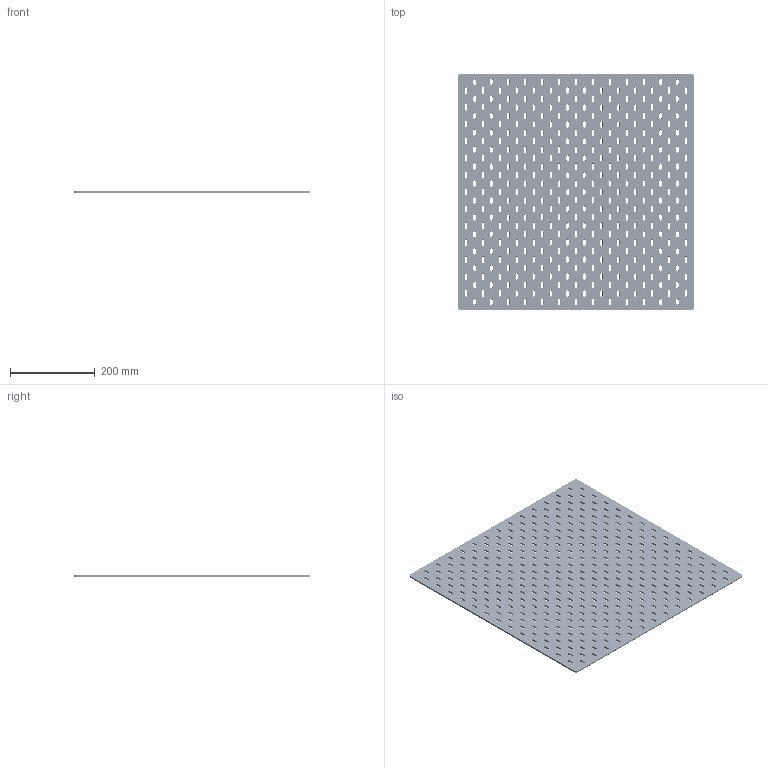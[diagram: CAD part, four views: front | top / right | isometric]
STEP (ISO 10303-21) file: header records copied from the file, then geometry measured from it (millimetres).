
FILE_DESCRIPTION(/* description */ ('STEP AP242','CAx-IF Rec.Pracs.---Representation and Presentation of Product Manufacturing Information (PMI)---4.0---2014-10-13','CAx-IF Rec.Pracs.---3D Tessellated Geometry---0.4---2014-09-14','2;1'),/* implementation_level */ '2;1');
FILE_NAME(/* name */ '62af72a4d3ee48715a3042b3',/* time_stamp */ '2022-06-19T19:02:03+00:00',/* author */ (''),/* organization */ (''),/* preprocessor_version */ 'ST-DEVELOPER v18.102',/* originating_system */ ' ',/* authorisation */ ' ');
FILE_SCHEMA (('AP242_MANAGED_MODEL_BASED_3D_ENGINEERING_MIM_LF { 1 0 10303 442 1 1 4 }'));
Products named in the file (1): Skadis56x56
Bounding box: 560 x 560 x 5 mm (x, y, z)
Volume: 1434236.9 mm3; surface area: 639770.3 mm2
Topology: 1 solids, 1 shells, 4394 faces, 10248 edges, 5856 vertices
Faces by surface type: cylinder 2196, torus 1464, plane 734
Entity records: 125942 total; most frequent: DIRECTION 24894, CARTESIAN_POINT 20499, ORIENTED_EDGE 20496, AXIS2_PLACEMENT_3D 10251, EDGE_CURVE 10248, CIRCLE 5856, VERTEX_POINT 5856, EDGE_LOOP 5122
